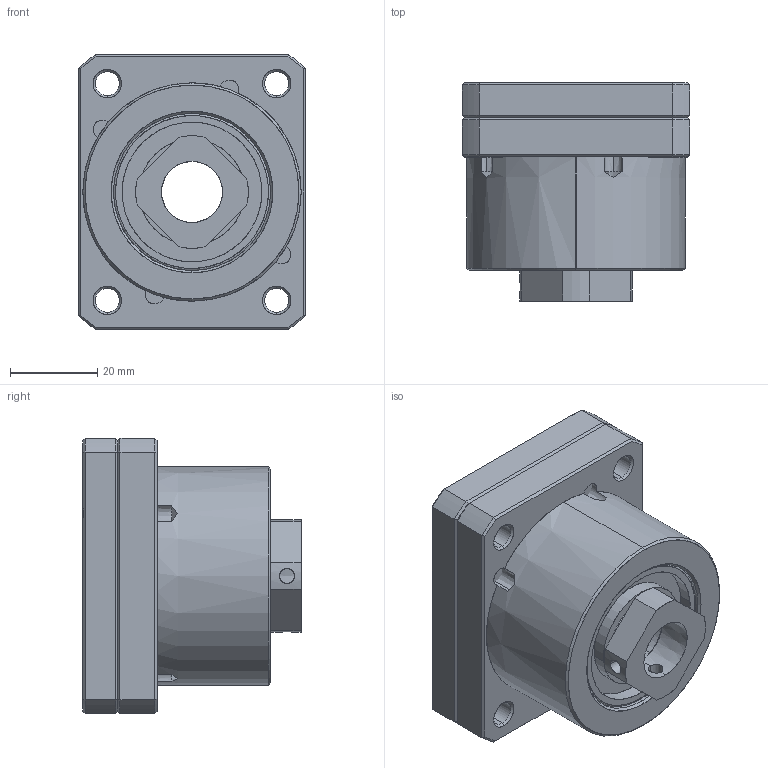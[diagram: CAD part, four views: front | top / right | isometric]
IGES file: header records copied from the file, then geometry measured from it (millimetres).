
Start section: SolidWorks IGES file using analytic representation for surfaces
Global section: file name: C:\Users\117\Desktop\FKA15H ｲﾕｦXｹﾏB.IGS; native system: SolidWorks 2018; preprocessor: SolidWorks 2018; author: 117; date: 210929.105538; units: millimetre
Bounding box: 52 x 50 x 63 mm (x, y, z)
Surface area: 24036.1 mm2 (no closed solid volume)
Topology: 0 solids, 0 shells, 219 faces, 3086 edges, 3086 vertices
Faces by surface type: revolution 133, bspline 86
